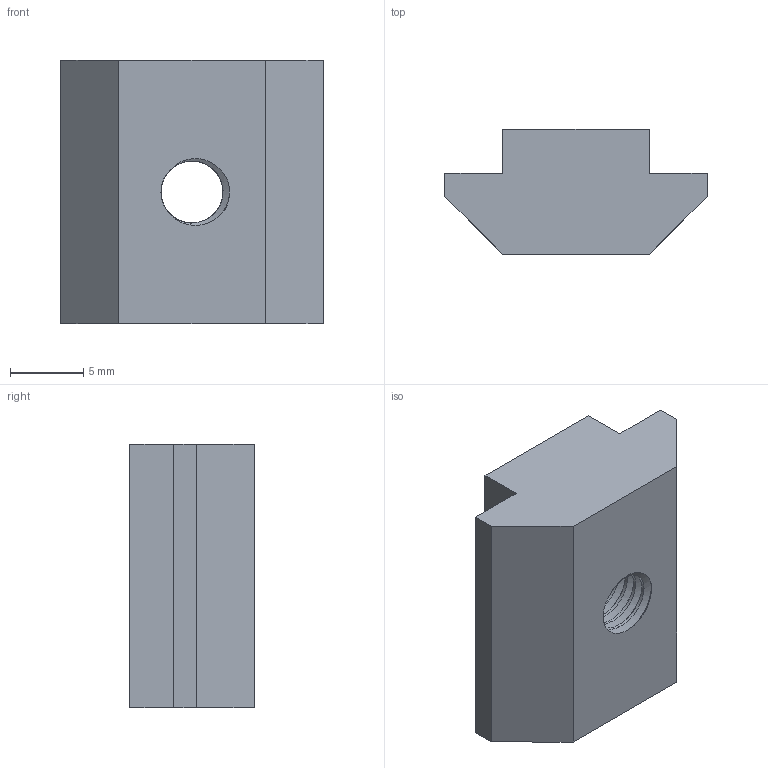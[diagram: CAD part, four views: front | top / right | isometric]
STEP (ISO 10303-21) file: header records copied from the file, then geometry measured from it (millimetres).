
FILE_DESCRIPTION(/* description */ ('STEP AP203'),/* implementation_level */ '2;1');
FILE_NAME(/* name */ 'M5 40 & 45 Series Roll In Nut - T-Slot - Zinc Plated.step',/* time_stamp */ '2024-08-20T23:34:13+03:00',/* author */ (''),/* organization */ (''),/* preprocessor_version */ 'ST-DEVELOPER v20',/* originating_system */ 'Autodesk Translation Framework v13.14.0.145',/* authorisation */ '');
FILE_SCHEMA (('AUTOMOTIVE_DESIGN { 1 0 10303 214 3 1 1 }'));
Length unit declared in the file: millimetre
Products named in the file (1): 2142.010.002
Bounding box: 17.9 x 8.5 x 18 mm (x, y, z)
Volume: 1889.9 mm3; surface area: 1262.1 mm2
Topology: 1 solids, 1 shells, 38 faces, 108 edges, 72 vertices
Faces by surface type: cylinder 24, plane 12, bspline 2
Full cylindrical faces by diameter (mm): 4.234 x5, 5.12 x2
Entity records: 2737 total; most frequent: CARTESIAN_POINT 1810, ORIENTED_EDGE 216, DIRECTION 136, EDGE_CURVE 108, VERTEX_POINT 72, LINE 52, VECTOR 52, B_SPLINE_CURVE_WITH_KNOTS 51
